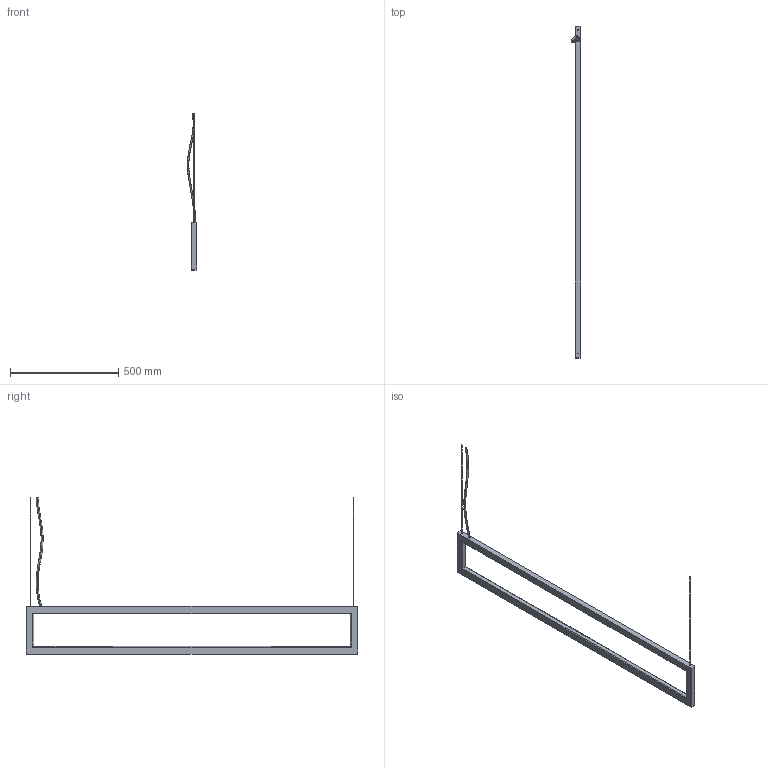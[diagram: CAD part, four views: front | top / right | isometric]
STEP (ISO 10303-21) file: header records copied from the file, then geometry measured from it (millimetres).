
FILE_DESCRIPTION(/* description */ (''),/* implementation_level */ '2;1');
FILE_NAME(/* name */ 'AQ84CB~1',/* time_stamp */ '2019-03-21T11:12:59+01:00',/* author */ (''),/* organization */ (''),/* preprocessor_version */ 'ST-DEVELOPER v15',/* originating_system */ '',/* authorisation */ '');
FILE_SCHEMA (('AUTOMOTIVE_DESIGN_CC2'));
Length unit declared in the file: millimetre
Products named in the file (1): Document
Bounding box: 42.93 x 1530.76 x 720 mm (x, y, z)
Surface area: 420259.9 mm2 (no closed solid volume)
Topology: 0 solids, 37 shells, 37 faces, 186 edges, 186 vertices
Faces by surface type: bspline 37
Entity records: 3987 total; most frequent: CARTESIAN_POINT 2031, B_SPLINE_CURVE_WITH_KNOTS 270, ORIENTED_EDGE 186, PCURVE 186, DEFINITIONAL_REPRESENTATION 186, SURFACE_CURVE 186, EDGE_CURVE 186, VERTEX_POINT 186
